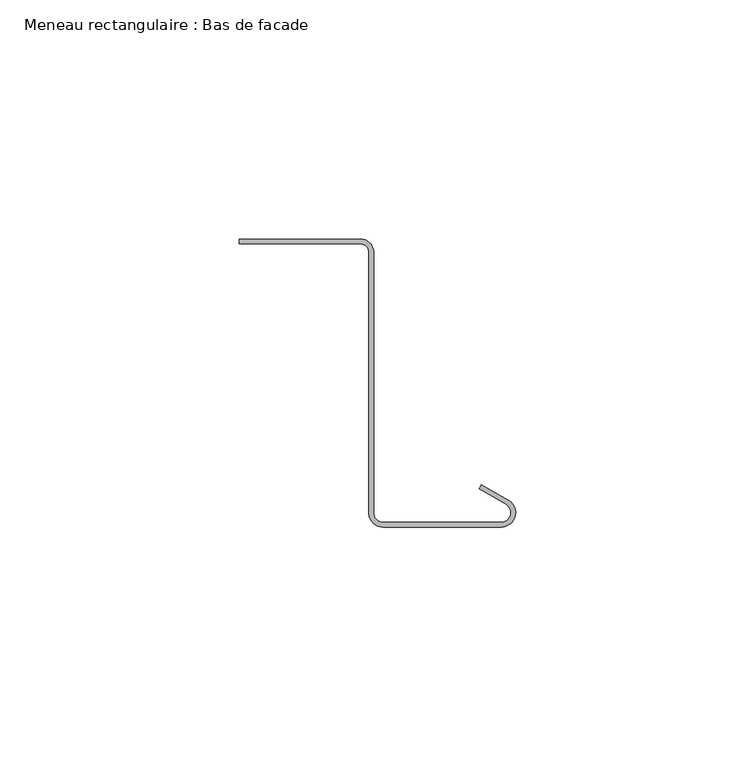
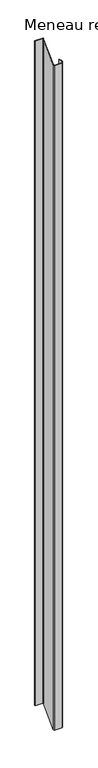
"""IFC4 building model written with IfcOpenShell, lengths in millimetres: member geometry, Meneau rectangulaire : Bas de facade."""

from ifc_helpers import new_model, si_unit, frame, origin, place, context, project, spatial, polyline, ellipse_curve, source, transform, mapped, element, save
from ifc_brep_helpers import plane_surface, cylinder_surface, revolved_surface, advanced_brep


def meneau_rectangulaire_bas_de_facade_bd68af9d(model_context):
    return source(origin(), model_context, "Body", "AdvancedBrep", [
        advanced_brep(
        [(-57.8548383, 2.9588923, 2.9588923), (-32.4584179, 2.9588923, 2.9588923), (-32.4584179, 2.9588923, -2295.2281983), (-57.8548383, 2.9588923, -2295.2281983), (-57.8548383, 1.9588923, 1.9588923), (-57.8548383, 1.9588923, -2296.2281983), (-32.4584179, 1.9588923, 1.9588923), (-32.4584179, 1.9588923, -2296.2281983), (-30.7239521, 0.4415475, 0.4415475), (-30.7239521, 0.4415475, -2297.7455431), (-30.7239521, -54.522067, -54.522067), (-30.7239521, -54.522067, -2352.7091576), (-27.735368, -57.2605998, -57.2605998), (-27.735368, -57.2605998, -2355.4476904), (-3.0, -57.2605998, -57.2605998), (-3.0, -57.2605998, -2355.4476904), (-1.5, -51.6625235, -51.6625235), (-1.5, -51.6625235, -2349.8496141), (-7.1638061, -48.3925235, -48.3925235), (-7.1638061, -48.3925235, -2346.5796141), (-7.6638061, -49.258549, -49.258549), (-7.6638061, -49.258549, -2347.4456395), (-2.0, -52.528549, -52.528549), (-2.0, -52.528549, -2350.7156395), (-3.0, -56.2605998, -56.2605998), (-3.0, -56.2605998, -2354.4476904), (-27.735368, -56.2605998, -56.2605998), (-27.735368, -56.2605998, -2354.4476904), (-29.7143802, -54.5495817, -54.5495817), (-29.7143802, -54.5495817, -2352.7366723), (-29.7143802, 0.3898824, 0.3898824), (-29.7143802, 0.3898824, -2297.7972082)],
        [
            (0, 1),
            (1, 2),
            (2, 3),
            (3, 0),
            (4, 0),
            (3, 5),
            (5, 4),
            (6, 4),
            (5, 7),
            (7, 6),
            (8, 6, ellipse_curve(frame((-32.4584179, 0.2088923, 0.2088923), z_axis=(0.0, -0.7071067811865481, 0.7071067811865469), x_axis=(0.0, -0.7071067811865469, -0.7071067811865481)), 2.4748737, 1.75)),
            (7, 9, ellipse_curve(frame((-32.4584179, 0.2088923, -2297.9781983), z_axis=(0.0, 0.707106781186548, -0.707106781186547), x_axis=(0.0, -0.707106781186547, -0.7071067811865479)), 2.4748737, 1.75)),
            (9, 8),
            (10, 8),
            (9, 11),
            (11, 10),
            (12, 10, ellipse_curve(frame((-27.735368, -54.2605998, -54.2605998), z_axis=(0.0, 0.7071067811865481, -0.7071067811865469), x_axis=(0.0, 0.7071067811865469, 0.7071067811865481)), 4.2426407, 3.0)),
            (11, 13, ellipse_curve(frame((-27.735368, -54.2605998, -2352.4476904), z_axis=(0.0, -0.707106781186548, 0.707106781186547), x_axis=(0.0, 0.707106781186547, 0.7071067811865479)), 4.2426407, 3.0)),
            (13, 12),
            (14, 12),
            (13, 15),
            (15, 14),
            (16, 14, ellipse_curve(frame((-3.0, -54.2605998, -54.2605998), z_axis=(0.0, 0.7071067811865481, -0.7071067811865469), x_axis=(0.0, 0.7071067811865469, 0.7071067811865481)), 4.2426407, 3.0)),
            (15, 17, ellipse_curve(frame((-3.0, -54.2605998, -2352.4476904), z_axis=(0.0, -0.707106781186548, 0.707106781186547), x_axis=(0.0, 0.707106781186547, 0.7071067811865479)), 4.2426407, 3.0)),
            (17, 16),
            (18, 16),
            (17, 19),
            (19, 18),
            (20, 18),
            (19, 21),
            (21, 20),
            (22, 20),
            (21, 23),
            (23, 22),
            (24, 22, ellipse_curve(frame((-3.0, -54.2605998, -54.2605998), z_axis=(0.0, -0.7071067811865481, 0.7071067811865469), x_axis=(0.0, -0.7071067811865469, -0.7071067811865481)), 2.8284271, 2.0)),
            (23, 25, ellipse_curve(frame((-3.0, -54.2605998, -2352.4476904), z_axis=(0.0, 0.707106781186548, -0.707106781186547), x_axis=(0.0, -0.707106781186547, -0.7071067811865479)), 2.8284271, 2.0)),
            (25, 24),
            (26, 24),
            (25, 27),
            (27, 26),
            (28, 26, ellipse_curve(frame((-27.735368, -54.2605998, -54.2605998), z_axis=(0.0, -0.7071067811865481, 0.7071067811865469), x_axis=(0.0, -0.7071067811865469, -0.7071067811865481)), 2.8284271, 2.0)),
            (27, 29, ellipse_curve(frame((-27.735368, -54.2605998, -2352.4476904), z_axis=(0.0, 0.707106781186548, -0.707106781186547), x_axis=(0.0, -0.707106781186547, -0.7071067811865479)), 2.8284271, 2.0)),
            (29, 28),
            (30, 28),
            (29, 31),
            (31, 30),
            (1, 30, ellipse_curve(frame((-32.4584179, 0.2088923, 0.2088923), z_axis=(0.0, 0.7071067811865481, -0.7071067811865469), x_axis=(0.0, 0.7071067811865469, 0.7071067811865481)), 3.8890873, 2.75)),
            (31, 2, ellipse_curve(frame((-32.4584179, 0.2088923, -2297.9781983), z_axis=(0.0, -0.707106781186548, 0.707106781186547), x_axis=(0.0, 0.707106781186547, 0.7071067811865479)), 3.8890873, 2.75)),
        ],
        [
            plane_surface(frame((-32.4584179, 2.9588923, 0.0), z_axis=(0.0, 1.0, 0.0), x_axis=(0.0, 0.0, -1.0))),
            plane_surface(frame((-57.8548383, 2.9588923, 0.0), z_axis=(-1.0, 0.0, 0.0), x_axis=(0.0, 0.0, -1.0))),
            plane_surface(frame((-57.8548383, 1.9588923, 0.0), z_axis=(0.0, -1.0, 0.0), x_axis=(0.0, 0.0, -1.0))),
            revolved_surface(polyline([(-32.4584179, 1.9588923, -2299.72819827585), (-32.4584179, 1.9588923, 1.9588923)]), (-32.4584179, 0.2088923, 0.0), (0.0, 0.0, -1.0)),
            plane_surface(frame((-30.7239521, 0.4415475, 0.0), z_axis=(-1.0, 0.0, 0.0), x_axis=(0.0, 0.0, -1.0))),
            cylinder_surface(frame((-27.735368, -54.2605998, 0.0), z_axis=(0.0, 0.0, 1.0000000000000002), x_axis=(-0.9961946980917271, -0.08715574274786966, 0.0)), 3.0),
            plane_surface(frame((-27.735368, -57.2605998, 0.0), z_axis=(0.0, -1.0, 0.0), x_axis=(0.0, 0.0, -1.0))),
            cylinder_surface(frame((-3.0, -54.2605998, 0.0), z_axis=(0.0, 0.0, 1.0), x_axis=(0.0, -1.0, 0.0)), 3.0),
            plane_surface(frame((-1.5, -51.6625235, 0.0), z_axis=(0.5000000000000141, 0.8660254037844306, 0.0), x_axis=(0.0, 0.0, -1.0))),
            plane_surface(frame((-7.1638061, -48.3925235, 0.0), z_axis=(-0.8660254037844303, 0.5000000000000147, 0.0), x_axis=(0.0, 0.0, -1.0))),
            plane_surface(frame((-7.6638061, -49.258549, 0.0), z_axis=(-0.500000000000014, -0.8660254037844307, 0.0), x_axis=(0.0, 0.0, -1.0))),
            revolved_surface(polyline([(-3.0, -56.2605998, -2354.4476904), (-3.0, -56.2605998, -52.260599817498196)]), (-3.0, -54.2605998, 0.0), (0.0, 0.0, -1.0)),
            plane_surface(frame((-3.0, -56.2605998, 0.0), z_axis=(0.0, 1.0, 0.0), x_axis=(0.0, 0.0, -1.0))),
            revolved_surface(polyline([(-29.727757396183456, -54.434911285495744, -2354.4476904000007), (-29.727757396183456, -54.434911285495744, -52.260599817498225)]), (-27.735368, -54.2605998, 0.0), (0.0, 0.0, -1.0000000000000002)),
            plane_surface(frame((-29.7143802, -54.5495817, 0.0), z_axis=(1.0, 0.0, 0.0), x_axis=(0.0, 0.0, -1.0))),
            cylinder_surface(frame((-32.4584179, 0.2088923, 0.0), z_axis=(0.0, 0.0, 1.0), x_axis=(0.0, 1.0, 0.0)), 2.75),
            plane_surface(frame((304.8, 0.0, 0.0), z_axis=(0.0, -0.7071067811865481, 0.7071067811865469), x_axis=(0.0, -0.7071067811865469, -0.7071067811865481))),
            plane_surface(frame((-304.8, 0.0, -2298.1870906), z_axis=(0.0, 0.707106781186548, -0.707106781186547), x_axis=(0.0, 0.707106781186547, 0.707106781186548))),
        ],
        [
            (0, [[1, 2, 3, 4]]),
            (1, [[5, -4, 6, 7]]),
            (2, [[8, -7, 9, 10]]),
            (3, [[11, -10, 12, 13]]),
            (4, [[14, -13, 15, 16]]),
            (5, [[17, -16, 18, 19]]),
            (6, [[20, -19, 21, 22]]),
            (7, [[23, -22, 24, 25]]),
            (8, [[26, -25, 27, 28]]),
            (9, [[29, -28, 30, 31]]),
            (10, [[32, -31, 33, 34]]),
            (11, [[35, -34, 36, 37]]),
            (12, [[38, -37, 39, 40]]),
            (13, [[41, -40, 42, 43]]),
            (14, [[44, -43, 45, 46]]),
            (15, [[47, -46, 48, -2]]),
            (16, [[-1, -5, -8, -11, -14, -17, -20, -23, -26, -29, -32, -35, -38, -41, -44, -47]]),
            (17, [[-48, -45, -42, -39, -36, -33, -30, -27, -24, -21, -18, -15, -12, -9, -6, -3]]),
        ],
    ),
    ])


if __name__ == "__main__":
    model = new_model("IFC4")
    model_context = context("Model", 3, world=origin())
    ifc_project = project(units=[si_unit("LENGTHUNIT", "METRE", prefix="MILLI")], contexts=[model_context])
    site = spatial("IfcSite", under=ifc_project)
    building = spatial("IfcBuilding", under=site)
    placement = place(None, origin())
    meneau_rectangulaire_bas_de_facade_shape = meneau_rectangulaire_bas_de_facade_bd68af9d(model_context)
    element("IfcMember", 1, ObjectType="Meneau rectangulaire : Bas de facade", at=placement, inside=building, context=model_context, shape_type="MappedRepresentation", body=[
        mapped(meneau_rectangulaire_bas_de_facade_shape, transform((0.0, 0.0, 0.0), x_axis=(1.0, 0.0, 0.0), y_axis=(0.0, 1.0, 0.0), z_axis=(0.0, 0.0, 1.0))),
    ])
    save(model, "model.ifc")
